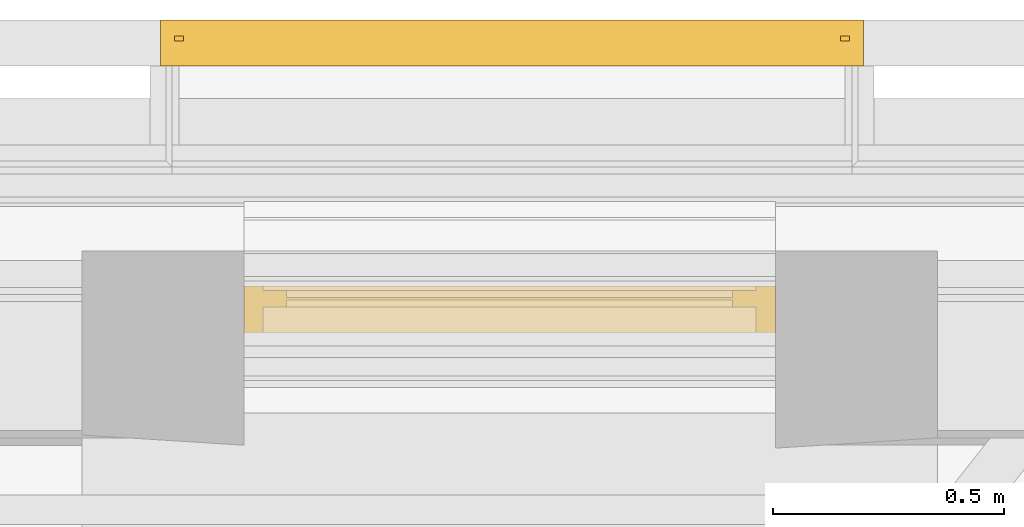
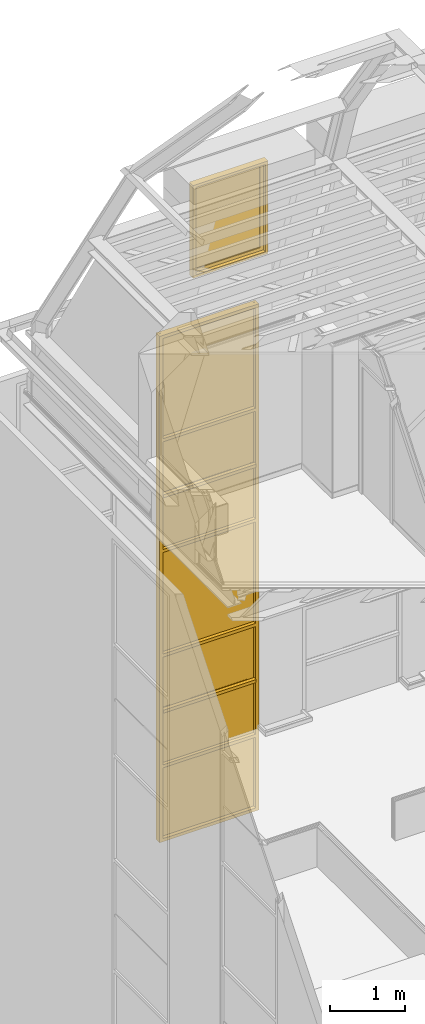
# One storey, part 125 of 183: 1 curtain wall, 1 window.
"""IFC2X3 building model written with IfcOpenShell, lengths in metres."""

from ifc_helpers import new_model, entity, si_unit, converted_unit, derived_unit, money_unit, direction, frame, origin_with_axes, place, context, subcontext, project, spatial, faceted_brep, material, type_object, element, save


model = new_model("IFC2X3")

# Units and contexts
model_context = context("Model", 3, precision=1e-05, world=origin_with_axes(), true_north=direction((0.0, 1.0)))
body_context = subcontext(model_context, "Body", "Model", "MODEL_VIEW", scale=1.0)
ifc_project = project(units=[si_unit("LENGTHUNIT", "METRE"), si_unit("AREAUNIT", "SQUARE_METRE"), si_unit("VOLUMEUNIT", "CUBIC_METRE"), si_unit("ABSORBEDDOSEUNIT", "GRAY"), si_unit("AMOUNTOFSUBSTANCEUNIT", "MOLE"), si_unit("DOSEEQUIVALENTUNIT", "SIEVERT"), si_unit("ELECTRICCAPACITANCEUNIT", "FARAD"), si_unit("ELECTRICCHARGEUNIT", "COULOMB"), si_unit("ELECTRICCONDUCTANCEUNIT", "SIEMENS"), si_unit("ELECTRICCURRENTUNIT", "AMPERE"), si_unit("ELECTRICRESISTANCEUNIT", "OHM"), si_unit("ELECTRICVOLTAGEUNIT", "VOLT"), si_unit("ENERGYUNIT", "JOULE"), si_unit("FORCEUNIT", "NEWTON"), si_unit("FREQUENCYUNIT", "HERTZ"), si_unit("ILLUMINANCEUNIT", "LUX"), si_unit("INDUCTANCEUNIT", "HENRY"), si_unit("LUMINOUSFLUXUNIT", "LUMEN"), si_unit("LUMINOUSINTENSITYUNIT", "CANDELA"), si_unit("MAGNETICFLUXDENSITYUNIT", "TESLA"), si_unit("MAGNETICFLUXUNIT", "WEBER"), si_unit("MASSUNIT", "GRAM"), converted_unit("PLANEANGLEUNIT", "degree", entity("IfcReal", 0.0174532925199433), si_unit("PLANEANGLEUNIT", "RADIAN"), dimensions=[0, 0, 0, 0, 0, 0, 0]), si_unit("POWERUNIT", "WATT"), si_unit("PRESSUREUNIT", "PASCAL"), si_unit("RADIOACTIVITYUNIT", "BECQUEREL"), si_unit("SOLIDANGLEUNIT", "STERADIAN"), si_unit("THERMODYNAMICTEMPERATUREUNIT", "KELVIN"), si_unit("TIMEUNIT", "SECOND"), derived_unit("ACCELERATIONUNIT", [(si_unit("LENGTHUNIT", "METRE"), 1), (si_unit("TIMEUNIT", "SECOND"), -2)]), derived_unit("ANGULARVELOCITYUNIT", [(converted_unit("PLANEANGLEUNIT", "degree", entity("IfcReal", 0.0174532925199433), si_unit("PLANEANGLEUNIT", "RADIAN"), dimensions=[0, 0, 0, 0, 0, 0, 0]), 1), (si_unit("TIMEUNIT", "SECOND"), -1)]), derived_unit("CURVATUREUNIT", [(converted_unit("PLANEANGLEUNIT", "degree", entity("IfcReal", 0.0174532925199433), si_unit("PLANEANGLEUNIT", "RADIAN"), dimensions=[0, 0, 0, 0, 0, 0, 0]), 1), (si_unit("LENGTHUNIT", "METRE"), -1)]), derived_unit("DYNAMICVISCOSITYUNIT", [(si_unit("PRESSUREUNIT", "PASCAL"), 1), (si_unit("TIMEUNIT", "SECOND"), 1)]), derived_unit("HEATFLUXDENSITYUNIT", [(si_unit("POWERUNIT", "WATT"), 1), (si_unit("LENGTHUNIT", "METRE"), -2)]), derived_unit("HEATINGVALUEUNIT", [(si_unit("ENERGYUNIT", "JOULE"), 1), (si_unit("MASSUNIT", "GRAM"), -1)]), derived_unit("INTEGERCOUNTRATEUNIT", [(si_unit("TIMEUNIT", "SECOND"), -1)]), derived_unit("IONCONCENTRATIONUNIT", [(si_unit("MASSUNIT", "GRAM"), 1), (si_unit("VOLUMEUNIT", "CUBIC_METRE"), -1)]), derived_unit("ISOTHERMALMOISTURECAPACITYUNIT", [(si_unit("VOLUMEUNIT", "CUBIC_METRE"), 1), (si_unit("MASSUNIT", "GRAM"), -1)]), derived_unit("KINEMATICVISCOSITYUNIT", [(si_unit("AREAUNIT", "SQUARE_METRE"), 1), (si_unit("TIMEUNIT", "SECOND"), -1)]), derived_unit("LINEARFORCEUNIT", [(si_unit("FORCEUNIT", "NEWTON"), 1), (si_unit("LENGTHUNIT", "METRE"), -1)]), derived_unit("LINEARMOMENTUNIT", [(si_unit("FORCEUNIT", "NEWTON"), 1), (si_unit("LENGTHUNIT", "METRE"), -1)]), derived_unit("LINEARSTIFFNESSUNIT", [(si_unit("FORCEUNIT", "NEWTON"), 1), (si_unit("LENGTHUNIT", "METRE"), -1)]), derived_unit("LINEARVELOCITYUNIT", [(si_unit("LENGTHUNIT", "METRE"), 1), (si_unit("TIMEUNIT", "SECOND"), -1)]), derived_unit("LUMINOUSINTENSITYDISTRIBUTIONUNIT", [(si_unit("LUMINOUSINTENSITYUNIT", "CANDELA"), 1), (si_unit("LUMINOUSFLUXUNIT", "LUMEN"), -1)]), derived_unit("MASSDENSITYUNIT", [(si_unit("MASSUNIT", "GRAM"), 1), (si_unit("VOLUMEUNIT", "CUBIC_METRE"), -1)]), derived_unit("MASSFLOWRATEUNIT", [(si_unit("MASSUNIT", "GRAM"), 1), (si_unit("TIMEUNIT", "SECOND"), -1)]), derived_unit("MASSPERLENGTHUNIT", [(si_unit("MASSUNIT", "GRAM"), 1), (si_unit("LENGTHUNIT", "METRE"), -1)]), derived_unit("MODULUSOFELASTICITYUNIT", [(si_unit("FORCEUNIT", "NEWTON"), 1), (si_unit("AREAUNIT", "SQUARE_METRE"), -1)]), derived_unit("MODULUSOFLINEARSUBGRADEREACTIONUNIT", [(si_unit("FORCEUNIT", "NEWTON"), 1), (si_unit("LENGTHUNIT", "METRE"), -2)]), derived_unit("MODULUSOFROTATIONALSUBGRADEREACTIONUNIT", [(si_unit("FORCEUNIT", "NEWTON"), 1), (si_unit("LENGTHUNIT", "METRE"), 1)]), derived_unit("MODULUSOFSUBGRADEREACTIONUNIT", [(si_unit("FORCEUNIT", "NEWTON"), 1), (si_unit("VOLUMEUNIT", "CUBIC_METRE"), -1)]), derived_unit("MOISTUREDIFFUSIVITYUNIT", [(si_unit("VOLUMEUNIT", "CUBIC_METRE"), 1), (si_unit("TIMEUNIT", "SECOND"), -1)]), derived_unit("MOLECULARWEIGHTUNIT", [(si_unit("MASSUNIT", "GRAM"), 1), (si_unit("AMOUNTOFSUBSTANCEUNIT", "MOLE"), -1)]), derived_unit("PLANARFORCEUNIT", [(si_unit("FORCEUNIT", "NEWTON"), 1), (si_unit("LENGTHUNIT", "METRE"), -2)]), derived_unit("ROTATIONALFREQUENCYUNIT", [(si_unit("TIMEUNIT", "SECOND"), -1)]), derived_unit("ROTATIONALMASSUNIT", [(si_unit("MASSUNIT", "GRAM"), 1), (si_unit("LENGTHUNIT", "METRE"), 2)]), derived_unit("ROTATIONALSTIFFNESSUNIT", [(si_unit("FORCEUNIT", "NEWTON"), 1), (si_unit("LENGTHUNIT", "METRE"), 1), (converted_unit("PLANEANGLEUNIT", "degree", entity("IfcReal", 0.0174532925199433), si_unit("PLANEANGLEUNIT", "RADIAN"), dimensions=[0, 0, 0, 0, 0, 0, 0]), -1)]), derived_unit("SECTIONAREAINTEGRALUNIT", [(si_unit("LENGTHUNIT", "METRE"), 5)]), derived_unit("SECTIONMODULUSUNIT", [(si_unit("LENGTHUNIT", "METRE"), 3)]), derived_unit("SHEARMODULUSUNIT", [(si_unit("FORCEUNIT", "NEWTON"), 1), (si_unit("AREAUNIT", "SQUARE_METRE"), -1)]), derived_unit("SOUNDPOWERUNIT", [(si_unit("ENERGYUNIT", "JOULE"), 1), (si_unit("TIMEUNIT", "SECOND"), -1)]), derived_unit("SPECIFICHEATCAPACITYUNIT", [(si_unit("FORCEUNIT", "NEWTON"), 1), (si_unit("MASSUNIT", "GRAM"), -1), (si_unit("THERMODYNAMICTEMPERATUREUNIT", "KELVIN"), -1)]), derived_unit("TEMPERATUREGRADIENTUNIT", [(si_unit("THERMODYNAMICTEMPERATUREUNIT", "KELVIN"), 1), (si_unit("LENGTHUNIT", "METRE"), -1)]), derived_unit("THERMALADMITTANCEUNIT", [(si_unit("POWERUNIT", "WATT"), 1), (si_unit("AREAUNIT", "SQUARE_METRE"), -1), (si_unit("THERMODYNAMICTEMPERATUREUNIT", "KELVIN"), -1)]), derived_unit("THERMALCONDUCTANCEUNIT", [(si_unit("POWERUNIT", "WATT"), 1), (si_unit("LENGTHUNIT", "METRE"), -1), (si_unit("THERMODYNAMICTEMPERATUREUNIT", "KELVIN"), -1)]), derived_unit("THERMALEXPANSIONCOEFFICIENTUNIT", [(si_unit("THERMODYNAMICTEMPERATUREUNIT", "KELVIN"), -1)]), derived_unit("THERMALRESISTANCEUNIT", [(si_unit("AREAUNIT", "SQUARE_METRE"), 1), (si_unit("POWERUNIT", "WATT"), -1)]), derived_unit("THERMALTRANSMITTANCEUNIT", [(si_unit("POWERUNIT", "WATT"), 1), (si_unit("AREAUNIT", "SQUARE_METRE"), -1), (si_unit("THERMODYNAMICTEMPERATUREUNIT", "KELVIN"), -1)]), derived_unit("TORQUEUNIT", [(si_unit("FORCEUNIT", "NEWTON"), 1), (si_unit("LENGTHUNIT", "METRE"), 1)]), derived_unit("VAPORPERMEABILITYUNIT", [(si_unit("MASSUNIT", "GRAM"), 1), (si_unit("TIMEUNIT", "SECOND"), -1)]), derived_unit("VOLUMETRICFLOWRATEUNIT", [(si_unit("VOLUMEUNIT", "CUBIC_METRE"), 1), (si_unit("TIMEUNIT", "SECOND"), -1)]), derived_unit("WARPINGCONSTANTUNIT", [(si_unit("LENGTHUNIT", "METRE"), 6)]), derived_unit("WARPINGMOMENTUNIT", [(si_unit("FORCEUNIT", "NEWTON"), 1), (si_unit("LENGTHUNIT", "METRE"), 2)]), money_unit("GBP")], contexts=[model_context])

# Site, building, storey
site_placement = place(None, origin_with_axes())
site = spatial("IfcSite", under=ifc_project, at=site_placement, Name="Site", CompositionType="ELEMENT")
building_placement = place(site_placement, origin_with_axes())
building = spatial("IfcBuilding", under=site, at=building_placement, Name="Building01", CompositionType="ELEMENT")
storey_placement = place(building_placement, frame((0.0, 0.0, 5.15), z_axis=(0.0, 0.0, 1.0), x_axis=(1.0, 0.0, 0.0)))
storey = spatial("IfcBuildingStorey", under=building, at=storey_placement, Name="1F", CompositionType="ELEMENT", Elevation=5.15)

# Curtain wall
ifc_material_1 = material(Name="A-CurtainWall_Frame")
curtain_wall_type = type_object("IfcCurtainWallType", Name="Pattern - Maximum Spacing", PredefinedType="NOTDEFINED")
curtain_wall_placement = place(storey_placement, frame((0.0, 0.0, -5.15), z_axis=(0.0, 0.0, 1.0), x_axis=(1.0, 0.0, 0.0)))
element("IfcCurtainWall", 1, at=curtain_wall_placement, inside=storey, type_object=curtain_wall_type, material=ifc_material_1, Name="11", ObjectType="Pattern - Maximum Spacing", context=body_context, shape_type="Brep", body=[
    faceted_brep([(4.38, 14.855, 7.716517), (4.38, 14.865, 7.716517), (2.92, 14.865, 7.716517), (2.92, 14.855, 7.716517), (4.38, 14.855, 6.530918), (4.38, 14.865, 6.530918), (2.92, 14.855, 6.530918), (2.92, 14.865, 6.530918)], [[[0, 1, 2, 3]], [[4, 5, 1, 0]], [[6, 7, 5, 4]], [[3, 2, 7, 6]], [[1, 5, 7, 2]], [[3, 6, 4, 0]]]),
    faceted_brep([(2.89, 14.9, 6.500918), (2.94, 14.9, 6.500918), (2.94, 14.865, 6.500918), (2.92, 14.865, 6.500918), (2.92, 14.855, 6.500918), (2.94, 14.855, 6.500918), (2.94, 14.8, 6.500918), (2.89, 14.8, 6.500918), (2.89, 14.8, 7.721517), (2.89, 14.9, 7.721517), (2.94, 14.9, 7.721517), (2.94, 14.865, 7.721517), (2.92, 14.865, 7.721517), (2.92, 14.855, 7.721517), (2.94, 14.855, 7.721517), (2.94, 14.8, 7.721517)], [[[0, 1, 2, 3, 4, 5, 6, 7]], [[7, 8, 9, 0]], [[0, 9, 10, 1]], [[1, 10, 11, 2]], [[2, 11, 12, 3]], [[3, 12, 13, 4]], [[4, 13, 14, 5]], [[5, 14, 15, 6]], [[6, 15, 8, 7]]]),
    faceted_brep([(4.36, 14.9, 6.550918), (4.36, 14.865, 6.550918), (4.36, 14.865, 6.530918), (4.36, 14.855, 6.530918), (4.36, 14.855, 6.550918), (4.36, 14.8, 6.550918), (4.36, 14.8, 6.500918), (4.36, 14.9, 6.500918), (2.94, 14.9, 6.500918), (2.94, 14.9, 6.550918), (2.94, 14.865, 6.550918), (2.94, 14.865, 6.530918), (2.94, 14.855, 6.530918), (2.94, 14.855, 6.550918), (2.94, 14.8, 6.550918), (2.94, 14.8, 6.500918)], [[[0, 1, 2, 3, 4, 5, 6, 7]], [[7, 8, 9, 0]], [[0, 9, 10, 1]], [[1, 10, 11, 2]], [[2, 11, 12, 3]], [[3, 12, 13, 4]], [[4, 13, 14, 5]], [[5, 14, 15, 6]], [[6, 15, 8, 7]], [[8, 15, 14, 13, 12, 11, 10, 9]]]),
    faceted_brep([(4.41, 14.9, 6.500918), (4.41, 14.9, 7.721517), (4.41, 14.8, 7.721517), (4.41, 14.8, 6.500918), (4.36, 14.9, 6.500918), (4.36, 14.9, 7.721517), (4.36, 14.865, 6.500918), (4.36, 14.865, 7.721517), (4.38, 14.865, 6.500918), (4.38, 14.865, 7.721517), (4.38, 14.855, 6.500918), (4.38, 14.855, 7.721517), (4.36, 14.855, 6.500918), (4.36, 14.855, 7.721517), (4.36, 14.8, 6.500918), (4.36, 14.8, 7.721517)], [[[0, 1, 2, 3]], [[4, 5, 1, 0]], [[6, 7, 5, 4]], [[8, 9, 7, 6]], [[10, 11, 9, 8]], [[12, 13, 11, 10]], [[14, 15, 13, 12]], [[3, 2, 15, 14]], [[14, 12, 10, 8, 6, 4, 0, 3]]]),
    faceted_brep([(2.94, 14.855, 7.726517), (2.94, 14.865, 7.726517), (2.94, 14.865, 7.746517), (2.94, 14.9, 7.746517), (2.94, 14.9, 7.696517), (2.94, 14.865, 7.696517), (2.94, 14.865, 7.716517), (2.94, 14.855, 7.716517), (2.94, 14.855, 7.696517), (2.94, 14.8, 7.696517), (2.94, 14.8, 7.746517), (2.94, 14.855, 7.746517), (4.36, 14.855, 7.746517), (4.36, 14.855, 7.726517), (4.36, 14.865, 7.726517), (4.36, 14.865, 7.746517), (4.36, 14.9, 7.746517), (4.36, 14.9, 7.696517), (4.36, 14.865, 7.696517), (4.36, 14.855, 7.716517), (4.36, 14.855, 7.696517), (4.36, 14.865, 7.716517), (4.36, 14.8, 7.746517), (4.36, 14.8, 7.696517)], [[[0, 1, 2, 3, 4, 5, 6, 7, 8, 9, 10, 11]], [[11, 12, 13, 0]], [[0, 13, 14, 1]], [[1, 14, 15, 2]], [[2, 15, 16, 3]], [[3, 16, 17, 4]], [[4, 17, 18, 5]], [[7, 19, 20, 8]], [[6, 21, 19, 7]], [[5, 18, 21, 6]], [[10, 22, 12, 11]], [[9, 23, 22, 10]], [[8, 20, 23, 9]], [[20, 19, 21, 18, 17, 16, 15, 14, 13, 12, 22, 23]]]),
    faceted_brep([(4.38, 14.85, 8.613217), (4.38, 14.87, 8.613217), (2.92, 14.87, 8.613217), (2.92, 14.85, 8.613217), (4.38, 14.85, 7.726517), (4.38, 14.87, 7.726517), (2.92, 14.85, 7.726517), (2.92, 14.87, 7.726517)], [[[0, 1, 2, 3]], [[4, 5, 1, 0]], [[6, 7, 5, 4]], [[3, 2, 7, 6]], [[1, 5, 7, 2]], [[3, 6, 4, 0]]]),
    faceted_brep([(2.94, 14.8, 8.618217), (2.94, 14.8, 7.721517), (2.94, 14.855, 7.721517), (2.94, 14.855, 8.618217), (2.89, 14.8, 8.618217), (2.89, 14.8, 7.721517), (2.89, 14.9, 8.618217), (2.89, 14.9, 7.721517), (2.94, 14.9, 8.618217), (2.94, 14.9, 7.721517), (2.94, 14.865, 8.618217), (2.94, 14.865, 7.721517), (2.92, 14.865, 8.618217), (2.92, 14.865, 7.721517), (2.92, 14.855, 8.618217), (2.92, 14.855, 7.721517)], [[[0, 1, 2, 3]], [[4, 5, 1, 0]], [[6, 7, 5, 4]], [[8, 9, 7, 6]], [[10, 11, 9, 8]], [[12, 13, 11, 10]], [[14, 15, 13, 12]], [[3, 2, 15, 14]]]),
    faceted_brep([(4.41, 14.9, 7.721517), (4.41, 14.9, 8.618217), (4.41, 14.8, 8.618217), (4.41, 14.8, 7.721517), (4.36, 14.9, 7.721517), (4.36, 14.9, 8.618217), (4.36, 14.865, 7.721517), (4.36, 14.865, 8.618217), (4.38, 14.865, 7.721517), (4.38, 14.865, 8.618217), (4.38, 14.855, 7.721517), (4.38, 14.855, 8.618217), (4.36, 14.855, 7.721517), (4.36, 14.855, 8.618217), (4.36, 14.8, 7.721517), (4.36, 14.8, 8.618217)], [[[0, 1, 2, 3]], [[4, 5, 1, 0]], [[6, 7, 5, 4]], [[8, 9, 7, 6]], [[10, 11, 9, 8]], [[12, 13, 11, 10]], [[14, 15, 13, 12]], [[3, 2, 15, 14]]]),
    faceted_brep([(2.94, 14.8375, 8.623217), (2.94, 14.8475, 8.623217), (2.94, 14.8475, 8.643217), (2.94, 14.8825, 8.643217), (2.94, 14.8825, 8.593217), (2.94, 14.8475, 8.593217), (2.94, 14.8475, 8.613217), (2.94, 14.8375, 8.613217), (2.94, 14.8375, 8.593217), (2.94, 14.7825, 8.593217), (2.94, 14.7825, 8.643217), (2.94, 14.8375, 8.643217), (4.36, 14.8375, 8.643217), (4.36, 14.8375, 8.623217), (4.36, 14.8475, 8.623217), (4.36, 14.8475, 8.643217), (4.36, 14.8825, 8.643217), (4.36, 14.8825, 8.593217), (4.36, 14.8475, 8.593217), (4.36, 14.8375, 8.613217), (4.36, 14.8375, 8.593217), (4.36, 14.8475, 8.613217), (4.36, 14.7825, 8.643217), (4.36, 14.7825, 8.593217)], [[[0, 1, 2, 3, 4, 5, 6, 7, 8, 9, 10, 11]], [[11, 12, 13, 0]], [[0, 13, 14, 1]], [[1, 14, 15, 2]], [[2, 15, 16, 3]], [[3, 16, 17, 4]], [[4, 17, 18, 5]], [[7, 19, 20, 8]], [[6, 21, 19, 7]], [[5, 18, 21, 6]], [[10, 22, 12, 11]], [[9, 23, 22, 10]], [[8, 20, 23, 9]], [[20, 19, 21, 18, 17, 16, 15, 14, 13, 12, 22, 23]]]),
    faceted_brep([(4.38, 14.85, 9.509916), (4.38, 14.87, 9.509916), (2.92, 14.87, 9.509916), (2.92, 14.85, 9.509916), (4.38, 14.85, 8.623217), (4.38, 14.87, 8.623217), (2.92, 14.85, 8.623217), (2.92, 14.87, 8.623217)], [[[0, 1, 2, 3]], [[4, 5, 1, 0]], [[6, 7, 5, 4]], [[3, 2, 7, 6]], [[1, 5, 7, 2]], [[3, 6, 4, 0]]]),
    faceted_brep([(2.94, 14.8, 9.514916), (2.94, 14.8, 8.618217), (2.94, 14.855, 8.618217), (2.94, 14.855, 9.514916), (2.89, 14.8, 9.514916), (2.89, 14.8, 8.618217), (2.89, 14.9, 9.514916), (2.89, 14.9, 8.618217), (2.94, 14.9, 9.514916), (2.94, 14.9, 8.618217), (2.94, 14.865, 9.514916), (2.94, 14.865, 8.618217), (2.92, 14.865, 9.514916), (2.92, 14.865, 8.618217), (2.92, 14.855, 9.514916), (2.92, 14.855, 8.618217)], [[[0, 1, 2, 3]], [[4, 5, 1, 0]], [[6, 7, 5, 4]], [[8, 9, 7, 6]], [[10, 11, 9, 8]], [[12, 13, 11, 10]], [[14, 15, 13, 12]], [[3, 2, 15, 14]]]),
    faceted_brep([(4.41, 14.9, 8.618217), (4.41, 14.9, 9.514916), (4.41, 14.8, 9.514916), (4.41, 14.8, 8.618217), (4.36, 14.9, 8.618217), (4.36, 14.9, 9.514916), (4.36, 14.865, 8.618217), (4.36, 14.865, 9.514916), (4.38, 14.865, 8.618217), (4.38, 14.865, 9.514916), (4.38, 14.855, 8.618217), (4.38, 14.855, 9.514916), (4.36, 14.855, 8.618217), (4.36, 14.855, 9.514916), (4.36, 14.8, 8.618217), (4.36, 14.8, 9.514916)], [[[0, 1, 2, 3]], [[4, 5, 1, 0]], [[6, 7, 5, 4]], [[8, 9, 7, 6]], [[10, 11, 9, 8]], [[12, 13, 11, 10]], [[14, 15, 13, 12]], [[3, 2, 15, 14]]]),
    faceted_brep([(2.94, 14.855, 9.519916), (2.94, 14.865, 9.519916), (2.94, 14.865, 9.539916), (2.94, 14.9, 9.539916), (2.94, 14.9, 9.489916), (2.94, 14.865, 9.489916), (2.94, 14.865, 9.509916), (2.94, 14.855, 9.509916), (2.94, 14.855, 9.489916), (2.94, 14.8, 9.489916), (2.94, 14.8, 9.539916), (2.94, 14.855, 9.539916), (4.36, 14.855, 9.539916), (4.36, 14.855, 9.519916), (4.36, 14.865, 9.519916), (4.36, 14.865, 9.539916), (4.36, 14.9, 9.539916), (4.36, 14.9, 9.489916), (4.36, 14.865, 9.489916), (4.36, 14.855, 9.509916), (4.36, 14.855, 9.489916), (4.36, 14.865, 9.509916), (4.36, 14.8, 9.539916), (4.36, 14.8, 9.489916)], [[[0, 1, 2, 3, 4, 5, 6, 7, 8, 9, 10, 11]], [[11, 12, 13, 0]], [[0, 13, 14, 1]], [[1, 14, 15, 2]], [[2, 15, 16, 3]], [[3, 16, 17, 4]], [[4, 17, 18, 5]], [[7, 19, 20, 8]], [[6, 21, 19, 7]], [[5, 18, 21, 6]], [[10, 22, 12, 11]], [[9, 23, 22, 10]], [[8, 20, 23, 9]], [[20, 19, 21, 18, 17, 16, 15, 14, 13, 12, 22, 23]]]),
    faceted_brep([(4.38, 14.855, 11.203681), (4.38, 14.865, 11.203681), (2.92, 14.865, 11.203681), (2.92, 14.855, 11.203681), (4.38, 14.855, 9.519916), (4.38, 14.865, 9.519916), (2.92, 14.855, 9.519916), (2.92, 14.865, 9.519916)], [[[0, 1, 2, 3]], [[4, 5, 1, 0]], [[6, 7, 5, 4]], [[3, 2, 7, 6]], [[1, 5, 7, 2]], [[3, 6, 4, 0]]]),
    faceted_brep([(2.94, 14.8, 11.208681), (2.94, 14.8, 9.514916), (2.94, 14.855, 9.514916), (2.94, 14.855, 11.208681), (2.89, 14.8, 11.208681), (2.89, 14.8, 9.514916), (2.89, 14.9, 11.208681), (2.89, 14.9, 9.514916), (2.94, 14.9, 11.208681), (2.94, 14.9, 9.514916), (2.94, 14.865, 11.208681), (2.94, 14.865, 9.514916), (2.92, 14.865, 11.208681), (2.92, 14.865, 9.514916), (2.92, 14.855, 11.208681), (2.92, 14.855, 9.514916)], [[[0, 1, 2, 3]], [[4, 5, 1, 0]], [[6, 7, 5, 4]], [[8, 9, 7, 6]], [[10, 11, 9, 8]], [[12, 13, 11, 10]], [[14, 15, 13, 12]], [[3, 2, 15, 14]]]),
    faceted_brep([(4.41, 14.9, 9.514916), (4.41, 14.9, 11.208681), (4.41, 14.8, 11.208681), (4.41, 14.8, 9.514916), (4.36, 14.9, 9.514916), (4.36, 14.9, 11.208681), (4.36, 14.865, 9.514916), (4.36, 14.865, 11.208681), (4.38, 14.865, 9.514916), (4.38, 14.865, 11.208681), (4.38, 14.855, 9.514916), (4.38, 14.855, 11.208681), (4.36, 14.855, 9.514916), (4.36, 14.855, 11.208681), (4.36, 14.8, 9.514916), (4.36, 14.8, 11.208681)], [[[0, 1, 2, 3]], [[4, 5, 1, 0]], [[6, 7, 5, 4]], [[8, 9, 7, 6]], [[10, 11, 9, 8]], [[12, 13, 11, 10]], [[14, 15, 13, 12]], [[3, 2, 15, 14]]]),
    faceted_brep([(2.94, 14.855, 11.213681), (2.94, 14.865, 11.213681), (2.94, 14.865, 11.233681), (2.94, 14.9, 11.233681), (2.94, 14.9, 11.183681), (2.94, 14.865, 11.183681), (2.94, 14.865, 11.203681), (2.94, 14.855, 11.203681), (2.94, 14.855, 11.183681), (2.94, 14.8, 11.183681), (2.94, 14.8, 11.233681), (2.94, 14.855, 11.233681), (4.36, 14.855, 11.233681), (4.36, 14.855, 11.213681), (4.36, 14.865, 11.213681), (4.36, 14.865, 11.233681), (4.36, 14.9, 11.233681), (4.36, 14.9, 11.183681), (4.36, 14.865, 11.183681), (4.36, 14.855, 11.203681), (4.36, 14.855, 11.183681), (4.36, 14.865, 11.203681), (4.36, 14.8, 11.233681), (4.36, 14.8, 11.183681)], [[[0, 1, 2, 3, 4, 5, 6, 7, 8, 9, 10, 11]], [[11, 12, 13, 0]], [[0, 13, 14, 1]], [[1, 14, 15, 2]], [[2, 15, 16, 3]], [[3, 16, 17, 4]], [[4, 17, 18, 5]], [[7, 19, 20, 8]], [[6, 21, 19, 7]], [[5, 18, 21, 6]], [[10, 22, 12, 11]], [[9, 23, 22, 10]], [[8, 20, 23, 9]], [[20, 19, 21, 18, 17, 16, 15, 14, 13, 12, 22, 23]]]),
    faceted_brep([(4.38, 14.85, 12.10038), (4.38, 14.87, 12.10038), (2.92, 14.87, 12.10038), (2.92, 14.85, 12.10038), (4.38, 14.85, 11.213681), (4.38, 14.87, 11.213681), (2.92, 14.85, 11.213681), (2.92, 14.87, 11.213681)], [[[0, 1, 2, 3]], [[4, 5, 1, 0]], [[6, 7, 5, 4]], [[3, 2, 7, 6]], [[1, 5, 7, 2]], [[3, 6, 4, 0]]]),
    faceted_brep([(2.94, 14.8, 12.10538), (2.94, 14.8, 11.208681), (2.94, 14.855, 11.208681), (2.94, 14.855, 12.10538), (2.89, 14.8, 12.10538), (2.89, 14.8, 11.208681), (2.89, 14.9, 12.10538), (2.89, 14.9, 11.208681), (2.94, 14.9, 12.10538), (2.94, 14.9, 11.208681), (2.94, 14.865, 12.10538), (2.94, 14.865, 11.208681), (2.92, 14.865, 12.10538), (2.92, 14.865, 11.208681), (2.92, 14.855, 12.10538), (2.92, 14.855, 11.208681)], [[[0, 1, 2, 3]], [[4, 5, 1, 0]], [[6, 7, 5, 4]], [[8, 9, 7, 6]], [[10, 11, 9, 8]], [[12, 13, 11, 10]], [[14, 15, 13, 12]], [[3, 2, 15, 14]]]),
    faceted_brep([(4.41, 14.9, 11.208681), (4.41, 14.9, 12.10538), (4.41, 14.8, 12.10538), (4.41, 14.8, 11.208681), (4.36, 14.9, 11.208681), (4.36, 14.9, 12.10538), (4.36, 14.865, 11.208681), (4.36, 14.865, 12.10538), (4.38, 14.865, 11.208681), (4.38, 14.865, 12.10538), (4.38, 14.855, 11.208681), (4.38, 14.855, 12.10538), (4.36, 14.855, 11.208681), (4.36, 14.855, 12.10538), (4.36, 14.8, 11.208681), (4.36, 14.8, 12.10538)], [[[0, 1, 2, 3]], [[4, 5, 1, 0]], [[6, 7, 5, 4]], [[8, 9, 7, 6]], [[10, 11, 9, 8]], [[12, 13, 11, 10]], [[14, 15, 13, 12]], [[3, 2, 15, 14]]]),
    faceted_brep([(2.94, 14.8375, 12.11038), (2.94, 14.8475, 12.11038), (2.94, 14.8475, 12.13038), (2.94, 14.8825, 12.13038), (2.94, 14.8825, 12.08038), (2.94, 14.8475, 12.08038), (2.94, 14.8475, 12.10038), (2.94, 14.8375, 12.10038), (2.94, 14.8375, 12.08038), (2.94, 14.7825, 12.08038), (2.94, 14.7825, 12.13038), (2.94, 14.8375, 12.13038), (4.36, 14.8375, 12.13038), (4.36, 14.8375, 12.11038), (4.36, 14.8475, 12.11038), (4.36, 14.8475, 12.13038), (4.36, 14.8825, 12.13038), (4.36, 14.8825, 12.08038), (4.36, 14.8475, 12.08038), (4.36, 14.8375, 12.10038), (4.36, 14.8375, 12.08038), (4.36, 14.8475, 12.10038), (4.36, 14.7825, 12.13038), (4.36, 14.7825, 12.08038)], [[[0, 1, 2, 3, 4, 5, 6, 7, 8, 9, 10, 11]], [[11, 12, 13, 0]], [[0, 13, 14, 1]], [[1, 14, 15, 2]], [[2, 15, 16, 3]], [[3, 16, 17, 4]], [[4, 17, 18, 5]], [[7, 19, 20, 8]], [[6, 21, 19, 7]], [[5, 18, 21, 6]], [[10, 22, 12, 11]], [[9, 23, 22, 10]], [[8, 20, 23, 9]], [[20, 19, 21, 18, 17, 16, 15, 14, 13, 12, 22, 23]]]),
    faceted_brep([(2.92, 14.855, 13.00708), (2.92, 14.865, 13.00708), (4.38, 14.865, 13.00708), (4.38, 14.855, 13.00708), (2.92, 14.855, 14.670918), (2.92, 14.865, 14.670918), (4.38, 14.855, 14.670918), (4.38, 14.865, 14.670918)], [[[0, 1, 2, 3]], [[4, 5, 1, 0]], [[6, 7, 5, 4]], [[3, 2, 7, 6]], [[1, 5, 7, 2]], [[3, 6, 4, 0]]]),
    faceted_brep([(4.41, 14.9, 14.700918), (4.36, 14.9, 14.700918), (4.36, 14.865, 14.700918), (4.38, 14.865, 14.700918), (4.38, 14.855, 14.700918), (4.36, 14.855, 14.700918), (4.36, 14.8, 14.700918), (4.41, 14.8, 14.700918), (4.41, 14.8, 13.00208), (4.41, 14.9, 13.00208), (4.36, 14.9, 13.00208), (4.36, 14.865, 13.00208), (4.38, 14.865, 13.00208), (4.38, 14.855, 13.00208), (4.36, 14.855, 13.00208), (4.36, 14.8, 13.00208)], [[[0, 1, 2, 3, 4, 5, 6, 7]], [[7, 8, 9, 0]], [[0, 9, 10, 1]], [[1, 10, 11, 2]], [[2, 11, 12, 3]], [[3, 12, 13, 4]], [[4, 13, 14, 5]], [[5, 14, 15, 6]], [[6, 15, 8, 7]]]),
    faceted_brep([(2.94, 14.865, 14.670918), (2.94, 14.855, 14.670918), (2.94, 14.855, 14.650918), (2.94, 14.8, 14.650918), (2.94, 14.8, 14.700918), (2.94, 14.9, 14.700918), (2.94, 14.9, 14.650918), (2.94, 14.865, 14.650918), (4.36, 14.865, 14.650918), (4.36, 14.865, 14.670918), (4.36, 14.855, 14.670918), (4.36, 14.855, 14.650918), (4.36, 14.8, 14.650918), (4.36, 14.8, 14.700918), (4.36, 14.9, 14.700918), (4.36, 14.9, 14.650918)], [[[0, 1, 2, 3, 4, 5, 6, 7]], [[7, 8, 9, 0]], [[0, 9, 10, 1]], [[1, 10, 11, 2]], [[2, 11, 12, 3]], [[3, 12, 13, 4]], [[4, 13, 14, 5]], [[5, 14, 15, 6]], [[6, 15, 8, 7]], [[8, 15, 14, 13, 12, 11, 10, 9]]]),
    faceted_brep([(2.89, 14.9, 14.700918), (2.89, 14.9, 13.00208), (2.89, 14.8, 13.00208), (2.89, 14.8, 14.700918), (2.94, 14.9, 14.700918), (2.94, 14.9, 13.00208), (2.94, 14.865, 14.700918), (2.94, 14.865, 13.00208), (2.92, 14.865, 14.700918), (2.92, 14.865, 13.00208), (2.92, 14.855, 14.700918), (2.92, 14.855, 13.00208), (2.94, 14.855, 14.700918), (2.94, 14.855, 13.00208), (2.94, 14.8, 14.700918), (2.94, 14.8, 13.00208)], [[[0, 1, 2, 3]], [[4, 5, 1, 0]], [[6, 7, 5, 4]], [[8, 9, 7, 6]], [[10, 11, 9, 8]], [[12, 13, 11, 10]], [[14, 15, 13, 12]], [[3, 2, 15, 14]], [[14, 12, 10, 8, 6, 4, 0, 3]]]),
    faceted_brep([(4.36, 14.865, 13.00708), (4.36, 14.855, 13.00708), (4.36, 14.855, 13.02708), (4.36, 14.8, 13.02708), (4.36, 14.8, 12.97708), (4.36, 14.855, 12.97708), (4.36, 14.855, 12.99708), (4.36, 14.865, 12.99708), (4.36, 14.865, 12.97708), (4.36, 14.9, 12.97708), (4.36, 14.9, 13.02708), (4.36, 14.865, 13.02708), (2.94, 14.865, 13.02708), (2.94, 14.865, 13.00708), (2.94, 14.855, 13.00708), (2.94, 14.855, 13.02708), (2.94, 14.8, 13.02708), (2.94, 14.8, 12.97708), (2.94, 14.855, 12.97708), (2.94, 14.865, 12.99708), (2.94, 14.865, 12.97708), (2.94, 14.855, 12.99708), (2.94, 14.9, 13.02708), (2.94, 14.9, 12.97708)], [[[0, 1, 2, 3, 4, 5, 6, 7, 8, 9, 10, 11]], [[11, 12, 13, 0]], [[0, 13, 14, 1]], [[1, 14, 15, 2]], [[2, 15, 16, 3]], [[3, 16, 17, 4]], [[4, 17, 18, 5]], [[7, 19, 20, 8]], [[6, 21, 19, 7]], [[5, 18, 21, 6]], [[10, 22, 12, 11]], [[9, 23, 22, 10]], [[8, 20, 23, 9]], [[20, 19, 21, 18, 17, 16, 15, 14, 13, 12, 22, 23]]]),
    faceted_brep([(4.38, 14.85, 12.99708), (4.38, 14.87, 12.99708), (2.92, 14.87, 12.99708), (2.92, 14.85, 12.99708), (4.38, 14.85, 12.11038), (4.38, 14.87, 12.11038), (2.92, 14.85, 12.11038), (2.92, 14.87, 12.11038)], [[[0, 1, 2, 3]], [[4, 5, 1, 0]], [[6, 7, 5, 4]], [[3, 2, 7, 6]], [[1, 5, 7, 2]], [[3, 6, 4, 0]]]),
    faceted_brep([(2.94, 14.8, 13.00208), (2.94, 14.8, 12.10538), (2.94, 14.855, 12.10538), (2.94, 14.855, 13.00208), (2.89, 14.8, 13.00208), (2.89, 14.8, 12.10538), (2.89, 14.9, 13.00208), (2.89, 14.9, 12.10538), (2.94, 14.9, 13.00208), (2.94, 14.9, 12.10538), (2.94, 14.865, 13.00208), (2.94, 14.865, 12.10538), (2.92, 14.865, 13.00208), (2.92, 14.865, 12.10538), (2.92, 14.855, 13.00208), (2.92, 14.855, 12.10538)], [[[0, 1, 2, 3]], [[4, 5, 1, 0]], [[6, 7, 5, 4]], [[8, 9, 7, 6]], [[10, 11, 9, 8]], [[12, 13, 11, 10]], [[14, 15, 13, 12]], [[3, 2, 15, 14]]]),
    faceted_brep([(4.41, 14.9, 12.10538), (4.41, 14.9, 13.00208), (4.41, 14.8, 13.00208), (4.41, 14.8, 12.10538), (4.36, 14.9, 12.10538), (4.36, 14.9, 13.00208), (4.36, 14.865, 12.10538), (4.36, 14.865, 13.00208), (4.38, 14.865, 12.10538), (4.38, 14.865, 13.00208), (4.38, 14.855, 12.10538), (4.38, 14.855, 13.00208), (4.36, 14.855, 12.10538), (4.36, 14.855, 13.00208), (4.36, 14.8, 12.10538), (4.36, 14.8, 13.00208)], [[[0, 1, 2, 3]], [[4, 5, 1, 0]], [[6, 7, 5, 4]], [[8, 9, 7, 6]], [[10, 11, 9, 8]], [[12, 13, 11, 10]], [[14, 15, 13, 12]], [[3, 2, 15, 14]]]),
])

# Space
space_placement = place(storey_placement, frame((1.009939, 13.890379, 9.81), z_axis=(0.0, 0.0, 1.0), x_axis=(0.0, -1.0, 0.0)))
space = spatial("IfcSpace", under=storey, at=space_placement, Name="26", CompositionType="ELEMENT", InteriorOrExteriorSpace="NOTDEFINED")

# Window
ifc_material_2 = material(Name="A_BSUK_Windows")
window_style = type_object("IfcWindowStyle", Name="A-Awning", ConstructionType="NOTDEFINED", OperationType="USERDEFINED", ParameterTakesPrecedence=False, Sizeable=False)
window_placement = place(storey_placement, frame((3.070024, 14.350096, 10.78), z_axis=(0.0, 0.0, 1.0), x_axis=(-1.0, 0.0, 0.0)))
element("IfcWindow", 2, at=window_placement, inside=space, type_object=window_style, material=ifc_material_2, Name="4.14", ObjectType="A-Awning", OverallHeight=1.50000000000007, OverallWidth=1.15000000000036, context=body_context, shape_type="Brep", body=[
    faceted_brep([(-1.108, 0.0254, 0.042), (-0.042, 0.0254, 0.042), (-0.042, 0.1254, 0.042), (-1.108, 0.1254, 0.042), (-1.108, 0.0254, 1.458), (-1.108, 0.1254, 1.458), (-0.042, 0.0254, 1.458), (-0.042, 0.1254, 1.458), (0.0, 0.0254, 0.0), (0.0, 0.0254, 1.5), (-1.15, 0.0254, 1.5), (-1.15, 0.0254, 0.0), (0.0, 0.1254, 1.5), (-1.15, 0.1254, 1.5), (-1.15, 0.1254, 0.0), (0.0, 0.1254, 0.0)], [[[0, 1, 2, 3]], [[4, 0, 3, 5]], [[6, 4, 5, 7]], [[8, 9, 10, 11], [4, 6, 1, 0]], [[1, 6, 7, 2]], [[12, 13, 10, 9]], [[14, 15, 8, 11]], [[13, 14, 11, 10]], [[13, 12, 15, 14], [2, 7, 5, 3]], [[15, 12, 9, 8]]]),
    faceted_brep([(-1.0572, 0.0354, 0.0928), (-0.0928, 0.0354, 0.0928), (-0.0928, 0.0704, 0.0928), (-1.0572, 0.0704, 0.0928), (-1.0572, 0.0354, 1.4072), (-1.0572, 0.0704, 1.4072), (-0.0928, 0.0354, 1.4072), (-0.0928, 0.0704, 1.4072), (-1.108, 0.0704, 1.458), (-0.042, 0.0704, 1.458), (-0.042, 0.0704, 0.042), (-1.108, 0.0704, 0.042), (-1.108, 0.0354, 1.458), (-0.042, 0.0354, 1.458), (-0.042, 0.0354, 0.042), (-1.108, 0.0354, 0.042)], [[[0, 1, 2, 3]], [[4, 0, 3, 5]], [[6, 4, 5, 7]], [[8, 9, 10, 11], [2, 7, 5, 3]], [[9, 8, 12, 13]], [[10, 9, 13, 14]], [[11, 10, 14, 15]], [[8, 11, 15, 12]], [[14, 13, 12, 15], [4, 6, 1, 0]], [[1, 6, 7, 2]]]),
    faceted_brep([(-0.0928, 0.049725, 0.0928), (-0.0928, 0.056075, 0.0928), (-0.0928, 0.056075, 1.4072), (-0.0928, 0.049725, 1.4072), (-1.0572, 0.049725, 1.4072), (-1.0572, 0.056075, 1.4072), (-1.0572, 0.056075, 0.0928), (-1.0572, 0.049725, 0.0928)], [[[0, 1, 2, 3]], [[4, 5, 6, 7]], [[3, 2, 5, 4]], [[3, 4, 7, 0]], [[7, 6, 1, 0]], [[1, 6, 5, 2]]]),
])

save(model, "model.ifc")
